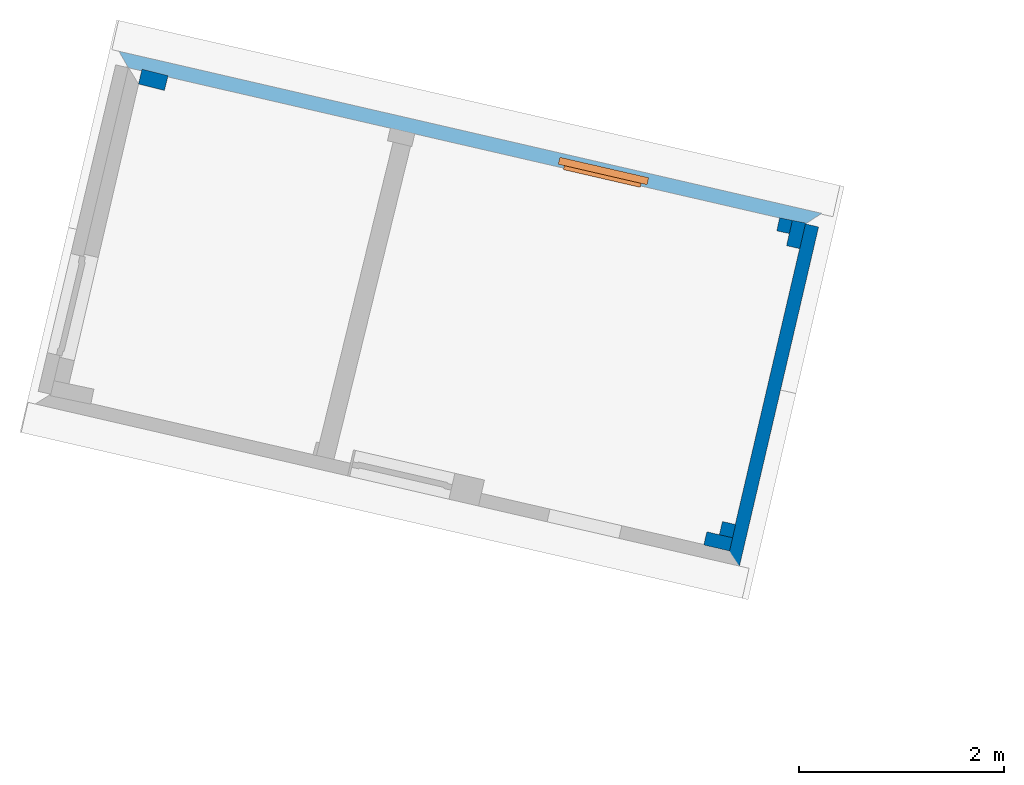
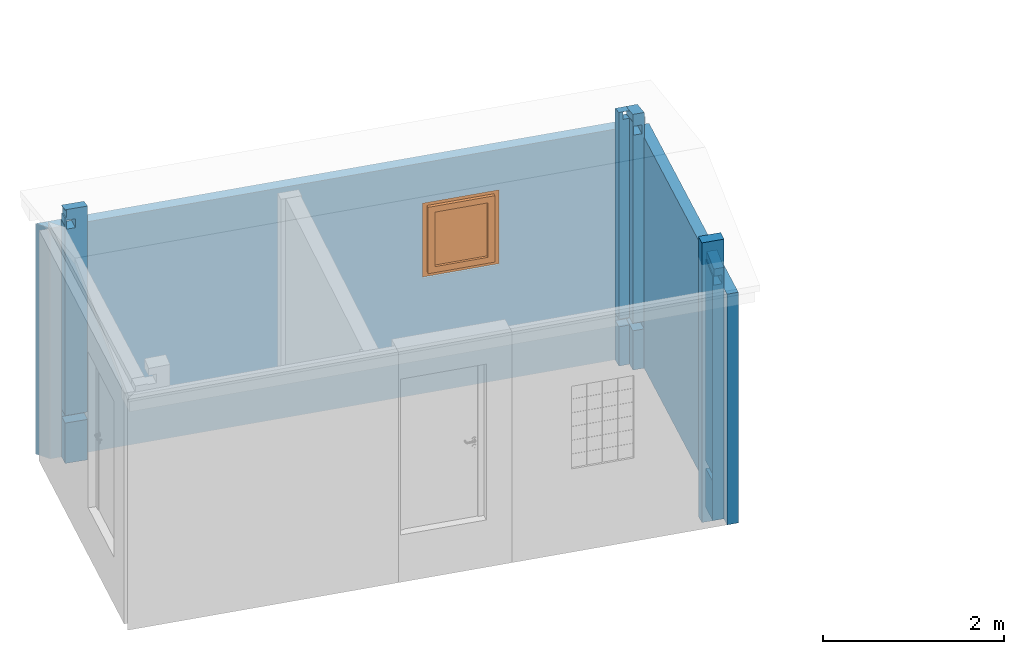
# One storey, part 113 of 196: 6 walls, 1 proxy, 1 opening, plus 1 element that does not belong to this part.
"""IFC2X3 building model written with IfcOpenShell, lengths in metres."""

from ifc_helpers import new_model, entity, si_unit, converted_unit, derived_unit, money_unit, direction, frame, origin_with_axes, origin_2d_with_axis, place, context, subcontext, project, spatial, polyline, rectangle, outline, extrude, boolean, faceted_brep, material, layer, layer_set, layer_usage, type_object, element, fill, save


model = new_model("IFC2X3")

# Units and contexts
model_context = context("Model", 3, precision=1e-05, world=origin_with_axes(), true_north=direction((0.0, 1.0)))
body_context = subcontext(model_context, "Body", "Model", "MODEL_VIEW")
ifc_project = project(units=[si_unit("LENGTHUNIT", "METRE"), si_unit("AREAUNIT", "SQUARE_METRE"), si_unit("VOLUMEUNIT", "CUBIC_METRE"), converted_unit("PLANEANGLEUNIT", "DEGREE", entity("IfcPlaneAngleMeasure", 0.0174532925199), si_unit("PLANEANGLEUNIT", "RADIAN"), dimensions=[0, 0, 0, 0, 0, 0, 0]), money_unit("EUR"), converted_unit("TIMEUNIT", "Year", entity("IfcTimeMeasure", 31556926.0), si_unit("TIMEUNIT", "SECOND"), dimensions=[0, 0, 1, 0, 0, 0, 0]), si_unit("MASSUNIT", "GRAM", prefix="KILO"), si_unit("THERMODYNAMICTEMPERATUREUNIT", "DEGREE_CELSIUS"), si_unit("LUMINOUSINTENSITYUNIT", "LUMEN"), si_unit("ENERGYUNIT", "JOULE", prefix="MEGA"), derived_unit("THERMALCONDUCTANCEUNIT", [(si_unit("POWERUNIT", "WATT"), 1), (si_unit("LENGTHUNIT", "METRE"), -1), (si_unit("THERMODYNAMICTEMPERATUREUNIT", "KELVIN"), -1)]), derived_unit("SPECIFICHEATCAPACITYUNIT", [(si_unit("ENERGYUNIT", "JOULE"), 1), (si_unit("MASSUNIT", "GRAM", prefix="KILO"), -1), (si_unit("THERMODYNAMICTEMPERATUREUNIT", "KELVIN"), -1)]), derived_unit("MASSDENSITYUNIT", [(si_unit("MASSUNIT", "GRAM", prefix="KILO"), 1), (si_unit("VOLUMEUNIT", "CUBIC_METRE"), -1)])], contexts=[model_context])

# Site, building, storey
site_placement = place(None, origin_with_axes())
site = spatial("IfcSite", under=ifc_project, at=site_placement, Name="Gelände", CompositionType="ELEMENT")
building_placement = place(site_placement, origin_with_axes())
building = spatial("IfcBuilding", under=site, at=building_placement, Name="Gebäude", CompositionType="ELEMENT")
storey_placement = place(building_placement, frame((0.0, 0.0, -3.0), z_axis=(0.0, 0.0, 1.0), x_axis=(1.0, 0.0, 0.0)))
storey = spatial("IfcBuildingStorey", under=building, at=storey_placement, Name="KELLERGESCHOSS", CompositionType="ELEMENT", Elevation=-3.0)

# Walls
ifc_material = material(Name="05_ALLGEMEIN - TRAGENDE BAUTEILE")
wall_type_1 = type_object("IfcWallType", Name="05_ALLGEMEIN - TRAGENDE BAUTEILE 150", PredefinedType="ELEMENTEDWALL")
wall_1_placement = place(storey_placement, frame((-70.9080551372, 73.1548123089, 0.0), z_axis=(0.0, 0.0, 1.0), x_axis=(0.970006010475, -0.243080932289, 0.0)))
element("IfcWall", 1, at=wall_1_placement, inside=storey, type_object=wall_type_1, material=ifc_material, Name="Wand-030", ObjectType="ELEMENTEDWALL", context=body_context, shape_type="CSG", body=[
    boolean("DIFFERENCE", boolean("DIFFERENCE", extrude(outline(polyline([(-0.152659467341, 0.0), (0.259885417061, 0.0), (0.259885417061, 0.15), (-0.152659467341, 0.15), (-0.152659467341, 0.0)])), origin_with_axes(), (0.0, 0.0, 1.0), 3.77095608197), faceted_brep([(0.0180226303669, 0.0, 3.1572637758), (0.118028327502, 0.0, 3.15727140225), (0.118028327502, 0.0, 3.27727446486), (0.0180226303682, 0.0, 3.27726683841), (0.0164214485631, 0.15, 3.15619203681), (0.116427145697, 0.15, 3.15619966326), (0.116427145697, 0.15, 3.27620272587), (0.0164214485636, 0.15, 3.27619509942)], [[[0, 1, 2, 3]], [[4, 5, 1, 0]], [[5, 6, 2, 1]], [[6, 7, 3, 2]], [[7, 4, 0, 3]], [[4, 7, 6, 5]]])), faceted_brep([(0.259885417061, 0.0, 3.42187980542), (0.259885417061, 0.15, 3.38691604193), (0.259885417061, 0.15, 3.77095608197), (0.259885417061, 0.0, 3.77095608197), (0.0, 0.15, 3.38578234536), (0.0, 0.0, 3.42074610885), (-0.00263630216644, 0.15, 3.19047733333), (-0.00263630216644, 0.15, 0.0), (-0.152659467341, 0.15, 0.0), (-0.152659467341, 0.15, 3.77095608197), (0.0, 0.15, 3.37619762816), (0.0155148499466, 0.15, 3.37621770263), (0.0155148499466, 0.15, 3.27517541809), (0.0, 0.15, 3.27515534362), (0.0, 0.15, 3.19047733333), (-0.152659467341, 0.0, 3.77095608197), (-0.152659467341, 0.0, 0.0), (0.0, 0.0, 0.0), (0.0, 0.0, 0.545), (0.259885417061, 0.0, 0.545), (0.259885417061, 0.0, 0.645), (0.0, 0.0, 0.645), (0.0, 0.0, 3.19047733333), (0.0, 0.0, 3.31168074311), (0.0163118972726, 0.0, 3.31170184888), (0.0163118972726, 0.0, 3.41274413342), (0.0, 0.0, 3.41272302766), (-0.00232432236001, 0.132249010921, 0.645), (-0.00232432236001, 0.132249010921, 0.545), (0.259885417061, 0.137204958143, 0.545), (0.259885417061, 0.137204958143, 0.645)], [[[0, 1, 2, 3]], [[4, 1, 0, 5]], [[6, 7, 8, 9, 2, 1, 4, 10, 11, 12, 13, 14]], [[9, 15, 3, 2]], [[5, 0, 3, 15, 16, 17, 18, 19, 20, 21, 22, 23, 24, 25, 26]], [[10, 4, 5, 26]], [[7, 6, 22, 21, 27, 28, 18, 17]], [[7, 17, 16, 8]], [[9, 8, 16, 15]], [[11, 10, 26, 25]], [[12, 11, 25, 24]], [[13, 12, 24, 23]], [[14, 13, 23, 22]], [[6, 14, 22]], [[29, 19, 18, 28]], [[30, 20, 19, 29]], [[20, 30, 27, 21]], [[30, 29, 28, 27]]])),
])
wall_type_2 = type_object("IfcWallType", Name="05_ALLGEMEIN - TRAGENDE BAUTEILE 132", PredefinedType="ELEMENTEDWALL")
wall_2_placement = place(storey_placement, frame((-64.5791579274, 71.5763915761, 0.0), z_axis=(0.0, 0.0, 1.0), x_axis=(0.222998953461, 0.974818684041, 0.0)))
element("IfcWall", 2, at=wall_2_placement, inside=storey, type_object=wall_type_2, material=ifc_material, Name="Wand-029", ObjectType="ELEMENTEDWALL", context=body_context, shape_type="CSG", body=[
    boolean("DIFFERENCE", boolean("DIFFERENCE", extrude(outline(polyline([(0.0, -0.132113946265), (0.257510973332, -0.132113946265), (0.257510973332, 0.0), (0.0, 0.0), (0.0, -0.132113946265)])), origin_with_axes(), (0.0, 0.0, 1.0), 3.77095608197), faceted_brep([(0.0, -0.00533378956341, 3.16636833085), (0.0, -0.105334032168, 3.16636787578), (0.0, -0.105334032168, 3.28636813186), (0.0, -0.00533378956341, 3.28636858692), (0.254273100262, -0.00589388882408, 3.16584302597), (0.256838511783, -0.105899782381, 3.165837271), (0.256838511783, -0.105899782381, 3.28583752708), (0.254273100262, -0.00589388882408, 3.28584328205), (0.257510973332, -0.132113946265, 0.0), (0.257510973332, -0.132113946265, 3.38739171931), (0.25412190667, 0.0, 3.38824151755), (0.25412190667, 0.0, 3.38544607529), (0.254195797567, -0.00288044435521, 3.38543176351), (0.254195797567, -0.00288044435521, 3.28451274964), (0.25412190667, 0.0, 3.28452706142), (0.25412190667, 0.0, 0.0), (0.257510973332, 0.0, 0.0), (0.257510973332, 0.0, 3.77095608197), (0.257510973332, -0.132113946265, 3.77095608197), (0.0, -0.132113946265, 3.44742580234), (0.0, 0.0, 3.44748550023), (0.0, 0.0, 3.77095608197), (0.0, 0.0, 3.34504374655), (0.0, 0.0, 3.44596276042), (0.0, -0.00409764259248, 3.44596743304), (0.0, -0.00409764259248, 3.34504841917), (0.0, -0.132113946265, 3.77095608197)], [[[0, 1, 2, 3]], [[1, 0, 4, 5]], [[2, 1, 5, 6]], [[3, 2, 6, 7]], [[0, 3, 7, 4]], [[8, 9, 10, 11, 12, 13, 14, 15], [5, 4, 7, 6]], [[9, 8, 16, 17, 18]], [[9, 19, 20, 10]], [[10, 20, 21, 17, 16, 15, 14, 22, 23, 11]], [[11, 23, 24, 12]], [[24, 25, 13, 12]], [[22, 14, 13, 25]], [[8, 15, 16]], [[21, 26, 18, 17]], [[19, 9, 18, 26]], [[20, 19, 26, 21]], [[24, 23, 22, 25]]])), faceted_brep([(0.0, 0.0, 0.53), (0.0, -0.13074139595, 0.53), (0.0, -0.13074139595, 0.63), (0.0, 0.0, 0.63), (0.248176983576, 0.0, 0.53), (0.247945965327, -0.131820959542, 0.53), (0.247945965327, -0.131820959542, 0.63), (0.248176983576, 0.0, 0.63)], [[[0, 1, 2, 3]], [[1, 0, 4, 5]], [[2, 1, 5, 6]], [[3, 2, 6, 7]], [[4, 0, 3, 7]], [[4, 7, 6, 5]]])),
])
wall_3_placement = place(storey_placement, frame((-64.3953647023, 71.7886979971, 0.0), z_axis=(0.0, 0.0, 1.0), x_axis=(-0.227241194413, -0.973838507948, 0.0)))
element("IfcWall", 3, at=wall_3_placement, inside=storey, type_object=wall_type_2, material=ifc_material, Name="Wand-029", ObjectType="ELEMENTEDWALL", context=body_context, shape_type="CSG", body=[
    boolean("DIFFERENCE", boolean("DIFFERENCE", boolean("DIFFERENCE", extrude(outline(polyline([(-0.136985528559, 0.0), (3.40101510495, 0.0), (3.40101510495, 0.132113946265), (-0.136985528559, 0.132113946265), (-0.136985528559, 0.0)])), origin_with_axes(), (0.0, 0.0, 1.0), 3.1099946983), faceted_brep([(3.36456893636, 0.0, 3.1099946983), (3.36456807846, 0.000125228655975, 3.1099946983), (3.34628840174, 0.0, 3.1099946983), (3.36456893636, 0.0, 3.08419394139), (3.36456807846, 0.000125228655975, 3.08419346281), (3.34628840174, 0.0, 3.08419346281)], [[[0, 1, 2]], [[1, 0, 3, 4]], [[5, 2, 1, 4]], [[3, 0, 2, 5]], [[3, 5, 4]]])), faceted_brep([(3.40061678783, 0.132113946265, 0.0), (3.40061678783, 0.132113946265, 3.1099946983), (3.40101510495, 0.132113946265, 3.1099946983), (3.40101510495, 0.132113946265, 0.0), (3.40101510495, 0.0, 3.1099946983), (3.40101510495, 0.0, 0.0)], [[[0, 1, 2, 3]], [[4, 1, 0, 5]], [[1, 4, 2]], [[4, 5, 3, 2]], [[5, 0, 3]]])), faceted_brep([(0.0, 0.0, 3.1099946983), (-0.000343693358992, 0.132113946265, 3.1099946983), (-0.136985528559, 0.132113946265, 3.1099946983), (-0.136985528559, 0.0, 3.1099946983), (-0.000343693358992, 0.132113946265, 0.0), (0.0, 0.0, 0.0), (-0.136985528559, 0.132113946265, 0.0), (-0.136985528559, 0.0, 0.0)], [[[0, 1, 2, 3]], [[4, 1, 0, 5]], [[1, 4, 6, 2]], [[2, 6, 7, 3]], [[5, 0, 3, 7]], [[4, 5, 7, 6]]])),
])
wall_4_placement = place(storey_placement, frame((-65.2352180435, 68.7533025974, 0.0), z_axis=(0.0, 0.0, 1.0), x_axis=(0.224883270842, 0.974385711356, 0.0)))
element("IfcWall", 4, at=wall_4_placement, inside=storey, type_object=wall_type_2, material=ifc_material, Name="Wand-030", ObjectType="ELEMENTEDWALL", context=body_context, shape_type="CSG", body=[
    boolean("DIFFERENCE", boolean("DIFFERENCE", extrude(outline(polyline([(-0.132323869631, -0.132113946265), (0.132432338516, -0.132113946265), (0.132432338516, 0.0), (-0.132323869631, 0.0), (-0.132323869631, -0.132113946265)])), origin_with_axes(), (0.0, 0.0, 1.0), 3.77095608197), faceted_brep([(0.132432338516, -0.00897898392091, 3.17208239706), (0.132432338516, -0.00897898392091, 3.29208265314), (0.132432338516, -0.108978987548, 3.2920825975), (0.132432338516, -0.108978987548, 3.17208234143), (-0.132128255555, -0.00890773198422, 3.17262895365), (-0.132128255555, -0.00890773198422, 3.28962516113), (-0.119291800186, -0.00891118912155, 3.29260269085), (-0.119281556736, -0.0122158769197, 3.29260266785), (-0.132133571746, -0.012256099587, 3.29262921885), (-0.132287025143, -0.108907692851, 3.29262948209), (-0.132287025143, -0.108907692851, 3.17262922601), (-0.132323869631, -0.132113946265, 3.39021878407), (-0.132323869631, -0.132113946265, 0.0), (-0.13211411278, 0.0, 0.0), (-0.13211411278, 0.0, 3.28963490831), (-0.132133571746, -0.012256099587, 3.39040162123), (0.132432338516, 0.0, 3.3509988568), (0.132432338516, -0.0114280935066, 3.35099056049), (0.132432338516, -0.0114280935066, 3.45170246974), (-0.132323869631, -0.132113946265, 3.77095608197), (-0.132323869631, 0.0, 3.77095608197), (-0.132323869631, 0.0, 0.0), (0.132432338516, 0.0, 3.77095608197), (0.132432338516, -0.132113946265, 3.45156619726), (0.132432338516, -0.132113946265, 3.77095608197)], [[[0, 1, 2, 3]], [[1, 0, 4, 5, 6]], [[2, 1, 6, 7, 8, 9]], [[3, 2, 9, 10]], [[0, 3, 10, 4]], [[11, 12, 13, 14, 5, 4, 10, 9, 8, 15]], [[16, 17, 7, 6, 5, 14]], [[17, 18, 15, 8, 7]], [[12, 11, 19, 20, 21]], [[13, 12, 21]], [[14, 13, 21, 20, 22, 16]], [[18, 23, 11, 15]], [[17, 16, 22, 24, 23, 18]], [[11, 23, 24, 19]], [[20, 19, 24, 22]]])), faceted_brep([(0.132432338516, -0.128435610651, 0.53), (0.132432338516, 0.0, 0.53), (0.132432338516, 0.0, 0.63), (0.132432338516, -0.128435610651, 0.63), (-0.127522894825, -0.12780636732, 0.53), (-0.127598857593, 0.0, 0.53), (-0.127598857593, 0.0, 0.63), (-0.127522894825, -0.12780636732, 0.63)], [[[0, 1, 2, 3]], [[1, 0, 4, 5]], [[6, 2, 1, 5]], [[3, 2, 6, 7]], [[0, 3, 7, 4]], [[6, 5, 4, 7]]])),
])
wall_5_placement = place(storey_placement, frame((-64.5519599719, 71.6952848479, 0.0), z_axis=(0.0, 0.0, 1.0), x_axis=(-0.980216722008, 0.197927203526, 0.0)))
element("IfcWall", 5, at=wall_5_placement, inside=storey, type_object=wall_type_2, material=ifc_material, Name="Wand-030", ObjectType="ELEMENTEDWALL", context=body_context, shape_type="CSG", body=[
    boolean("DIFFERENCE", extrude(outline(polyline([(-0.135546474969, -0.132113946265), (0.124282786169, -0.132113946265), (0.124282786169, 0.0), (-0.135546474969, 0.0), (-0.135546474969, -0.132113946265)])), origin_with_axes(), (0.0, 0.0, 1.0), 3.77095608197), faceted_brep([(0.0736736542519, -0.132113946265, 3.3858288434), (-0.00338906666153, -0.132113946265, 3.38544607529), (-0.00338906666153, -0.132113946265, 3.38824151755), (0.124282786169, -0.132113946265, 3.38906247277), (0.124282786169, -0.132113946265, 3.77095608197), (-0.135546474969, -0.132113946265, 3.77095608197), (-0.135546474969, -0.132113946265, 0.0), (-0.00338906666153, -0.132113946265, 0.0), (-0.00338906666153, -0.132113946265, 3.28452706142), (0.0736736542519, -0.132113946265, 3.28490982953), (0.0764297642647, 0.0, 3.41729771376), (0.0, 0.0, 3.41691808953), (0.0, 0.0, 3.41905165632), (0.124282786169, 0.0, 3.41985081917), (0.124282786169, 0.0, 3.77095608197), (-0.135546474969, 0.0, 3.77095608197), (-0.135546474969, 0.0, 0.0), (0.0, 0.0, 0.0), (0.0, 0.0, 0.53), (-0.00323661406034, -0.126170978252, 0.53), (-0.00323661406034, -0.126170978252, 0.63), (0.0, 0.0, 0.63), (0.0, 0.0, 3.31599907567), (0.0764297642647, 0.0, 3.3163786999), (0.124282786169, 0.0, 0.63), (0.124282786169, 0.0, 0.53), (0.124282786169, -0.129665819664, 0.53), (0.124282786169, -0.129665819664, 0.63)], [[[0, 1, 2, 3, 4, 5, 6, 7, 8, 9]], [[1, 0, 10, 11]], [[2, 1, 11, 12]], [[3, 2, 12, 13]], [[3, 13, 14, 4]], [[15, 5, 4, 14]], [[15, 16, 6, 5]], [[17, 7, 6, 16]], [[8, 7, 17, 18, 19, 20, 21, 22]], [[9, 8, 22, 23]], [[0, 9, 23, 10]], [[18, 17, 16, 15, 14, 13, 12, 11, 10, 23, 22, 21, 24, 25]], [[18, 25, 26, 19]], [[26, 27, 20, 19]], [[24, 21, 20, 27]], [[26, 25, 24, 27]]])),
])
wall_6_placement = place(storey_placement, frame((-65.3577464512, 68.7817865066, 0.0), z_axis=(0.0, 0.0, 1.0), x_axis=(0.974027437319, -0.226430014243, 0.0)))
element("IfcWall", 6, at=wall_6_placement, inside=storey, type_object=wall_type_2, material=ifc_material, Name="Wand-031", ObjectType="ELEMENTEDWALL", context=body_context, shape_type="CSG", body=[
    boolean("DIFFERENCE", extrude(outline(polyline([(0.0, -0.132113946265), (0.258119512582, -0.132113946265), (0.258119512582, 0.0), (0.0, 0.0), (0.0, -0.132113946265)])), origin_with_axes(), (0.0, 0.0, 1.0), 3.77095608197), faceted_brep([(0.0, -0.132113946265, 3.39060521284), (0.0, -0.132113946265, 3.77095608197), (0.0, 0.0, 3.77095608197), (0.0, 0.0, 3.42121743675), (0.126005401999, -0.132114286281, 3.39041649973), (0.0583339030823, -0.132113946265, 3.39048908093), (0.0583339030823, -0.132113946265, 3.28970895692), (0.126005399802, -0.132113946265, 3.28963490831), (0.126005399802, -0.132113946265, 0.0), (0.258119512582, -0.132113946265, 0.0), (0.258119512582, -0.132113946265, 3.77095608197), (0.258119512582, 0.0, 3.77095608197), (0.0577106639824, 7.82418858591e-07, 3.42113122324), (0.258119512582, 0.0, 0.0), (0.125795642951, 0.0, 0.0), (0.125795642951, 0.0, 0.53), (0.0, 0.0, 0.53), (0.0, 0.0, 0.63), (0.125795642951, 0.0, 0.63), (0.125795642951, 0.0, 3.32027997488), (0.0577106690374, 0.0, 3.32035447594), (0.125998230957, -0.127598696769, 0.63), (0.125998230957, -0.127598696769, 0.53), (0.0, -0.127873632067, 0.53), (0.0, -0.127873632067, 0.63)], [[[0, 1, 2, 3]], [[1, 0, 4, 5, 6, 7, 8, 9, 10]], [[2, 1, 10, 11]], [[12, 3, 2, 11, 13, 14, 15, 16, 17, 18, 19, 20]], [[0, 3, 12, 4]], [[5, 4, 12]], [[6, 5, 12, 20]], [[7, 6, 20, 19]], [[8, 7, 19, 18, 21, 22, 15, 14]], [[8, 14, 13, 9]], [[9, 13, 11, 10]], [[23, 16, 15, 22]], [[24, 17, 16, 23]], [[17, 24, 21, 18]], [[24, 23, 22, 21]]])),
])

# Wall, opening, proxy
ifc_layer = layer(ifc_material, 0.136641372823, ventilated="UNKNOWN")
ifc_layer_set = layer_set([ifc_layer], Name="05_ALLGEMEIN - TRAGENDE BAUTEILE 0.136641")
ifc_layer_usage = layer_usage(ifc_layer_set, "AXIS2", "NEGATIVE", 0.136641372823)
wall_type_3 = type_object("IfcWallType", Name="05_ALLGEMEIN - TRAGENDE BAUTEILE 137", PredefinedType="ELEMENTEDWALL")
wall_7_placement = place(storey_placement, frame((-71.1313780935, 73.3420522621, 0.0), z_axis=(0.0, 0.0, 1.0), x_axis=(0.974426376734, -0.224707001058, 0.0)))
wall_7 = element("IfcWallStandardCase", 7, at=wall_7_placement, inside=storey, type_object=wall_type_3, material=ifc_layer_usage, Name="Wand-028", ObjectType="ELEMENTEDWALL", context=body_context, shape_type="SweptSolid", body=[
    extrude(outline(polyline([(0.126969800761, 0.0), (6.91279870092, 0.0), (7.04526856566, 0.136641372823), (0.000880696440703, 0.136641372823), (0.126969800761, 0.0)])), origin_with_axes(), (0.0, 0.0, 1.0), 3.1099946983),
])
opening_placement = place(wall_7_placement, frame((4.87509581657, 0.0, 1.55305066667), z_axis=(0.0, 0.0, 1.0), x_axis=(1.0, 0.0, 0.0)))
opening = element("IfcOpeningElement", 8, at=opening_placement, cuts=wall_7, Name="Fenster-016", context=body_context, shape_type="SweptSolid", body=[
    extrude(rectangle(XDim=0.890044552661, YDim=1.014707, at=origin_2d_with_axis()), frame((0.0, 0.095689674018, 0.5073535), z_axis=(0.0, 1.0, 0.0), x_axis=(-1.0, 0.0, 0.0)), (0.0, 0.0, -1.0), 0.232331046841),
    extrude(rectangle(XDim=0.890044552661, YDim=1.014707, at=origin_2d_with_axis()), frame((0.0, 0.095689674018, 0.5073535), z_axis=(0.0, -1.0, 0.0), x_axis=(-1.0, 0.0, 0.0)), (0.0, 0.0, -1.0), 0.177593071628),
])
building_element_proxy_type = type_object("IfcBuildingElementProxyType", Name="1-Flügelfenster 25", PredefinedType="NOTDEFINED")
proxy_placement = place(opening_placement, frame((0.44502227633, 0.0, 0.0), z_axis=(0.0, 0.0, 1.0), x_axis=(-1.0, 0.0, 0.0)))
proxy = element("IfcBuildingElementProxy", 9, at=proxy_placement, inside=storey, type_object=building_element_proxy_type, Name="Fenster-016", context=body_context, shape_type="Brep", body=[
    faceted_brep([(0.0, -0.095689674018, 0.0), (0.0, -0.025689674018, 0.0), (0.08, -0.025689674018, 0.08), (0.08, -0.095689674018, 0.08), (0.0, -0.095689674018, 1.014707), (0.0, -0.025689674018, 1.014707), (0.08, -0.025689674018, 0.934707), (0.08, -0.095689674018, 0.934707)], [[[0, 1, 2, 3]], [[4, 5, 1, 0]], [[1, 5, 6, 2]], [[3, 2, 6, 7]], [[0, 3, 7, 4]], [[7, 6, 5, 4]]]),
    faceted_brep([(0.890044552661, -0.095689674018, 0.0), (0.890044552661, -0.025689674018, 0.0), (0.890044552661, -0.025689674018, 1.014707), (0.890044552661, -0.095689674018, 1.014707), (0.810044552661, -0.095689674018, 0.08), (0.810044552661, -0.025689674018, 0.08), (0.810044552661, -0.025689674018, 0.934707), (0.810044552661, -0.095689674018, 0.934707)], [[[0, 1, 2, 3]], [[4, 5, 1, 0]], [[1, 5, 6, 2]], [[3, 2, 6, 7]], [[0, 3, 7, 4]], [[7, 6, 5, 4]]]),
    faceted_brep([(0.0, -0.095689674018, 0.0), (0.0, -0.025689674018, 0.0), (0.890044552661, -0.025689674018, 0.0), (0.890044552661, -0.095689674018, 0.0), (0.08, -0.095689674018, 0.08), (0.08, -0.025689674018, 0.08), (0.44502227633, -0.025689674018, 0.08), (0.810044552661, -0.025689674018, 0.08), (0.810044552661, -0.095689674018, 0.08), (0.44502227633, -0.095689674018, 0.08)], [[[0, 1, 2, 3]], [[4, 5, 1, 0]], [[1, 5, 6, 7, 2]], [[3, 2, 7, 8]], [[0, 3, 8, 9, 4]], [[9, 6, 5, 4]], [[8, 7, 6, 9]]]),
    faceted_brep([(0.0, -0.095689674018, 1.014707), (0.0, -0.025689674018, 1.014707), (0.08, -0.025689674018, 0.934707), (0.08, -0.095689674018, 0.934707), (0.890044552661, -0.095689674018, 1.014707), (0.890044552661, -0.025689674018, 1.014707), (0.810044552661, -0.025689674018, 0.934707), (0.44502227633, -0.025689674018, 0.934707), (0.44502227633, -0.095689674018, 0.934707), (0.810044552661, -0.095689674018, 0.934707)], [[[0, 1, 2, 3]], [[4, 5, 1, 0]], [[1, 5, 6, 7, 2]], [[3, 2, 7, 8]], [[0, 3, 8, 9, 4]], [[9, 6, 5, 4]], [[8, 7, 6, 9]]]),
    faceted_brep([(0.06, -0.025689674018, 0.06), (0.06, 0.014310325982, 0.06), (0.14, 0.014310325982, 0.14), (0.14, -0.025689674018, 0.14), (0.06, -0.025689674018, 0.954707), (0.06, 0.014310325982, 0.954707), (0.14, 0.014310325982, 0.874707), (0.14, -0.025689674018, 0.874707)], [[[0, 1, 2, 3]], [[4, 5, 1, 0]], [[1, 5, 6, 2]], [[3, 2, 6, 7]], [[0, 3, 7, 4]], [[7, 6, 5, 4]]]),
    faceted_brep([(0.830044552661, -0.025689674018, 0.06), (0.750044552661, -0.025689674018, 0.14), (0.750044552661, 0.014310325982, 0.14), (0.830044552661, 0.014310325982, 0.06), (0.830044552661, -0.025689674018, 0.954707), (0.750044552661, -0.025689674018, 0.874707), (0.750044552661, 0.014310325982, 0.874707), (0.830044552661, 0.014310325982, 0.954707)], [[[0, 1, 2, 3]], [[0, 4, 5, 1]], [[1, 5, 6, 2]], [[3, 2, 6, 7]], [[4, 0, 3, 7]], [[5, 4, 7, 6]]]),
    faceted_brep([(0.06, -0.025689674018, 0.06), (0.06, 0.014310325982, 0.06), (0.830044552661, 0.014310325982, 0.06), (0.830044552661, -0.025689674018, 0.06), (0.14, -0.025689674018, 0.14), (0.14, 0.014310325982, 0.14), (0.750044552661, 0.014310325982, 0.14), (0.750044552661, -0.025689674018, 0.14)], [[[0, 1, 2, 3]], [[4, 5, 1, 0]], [[1, 5, 6, 2]], [[3, 2, 6, 7]], [[0, 3, 7, 4]], [[7, 6, 5, 4]]]),
    faceted_brep([(0.06, -0.025689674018, 0.954707), (0.830044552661, -0.025689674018, 0.954707), (0.830044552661, 0.014310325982, 0.954707), (0.06, 0.014310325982, 0.954707), (0.14, -0.025689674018, 0.874707), (0.750044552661, -0.025689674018, 0.874707), (0.750044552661, 0.014310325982, 0.874707), (0.14, 0.014310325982, 0.874707)], [[[0, 1, 2, 3]], [[0, 4, 5, 1]], [[1, 5, 6, 2]], [[3, 2, 6, 7]], [[4, 0, 3, 7]], [[5, 4, 7, 6]]]),
    faceted_brep([(0.08, -0.055689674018, 0.08), (0.08, -0.025689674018, 0.08), (0.14, -0.025689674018, 0.14), (0.14, -0.055689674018, 0.14), (0.08, -0.055689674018, 0.934707), (0.08, -0.025689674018, 0.934707), (0.14, -0.025689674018, 0.874707), (0.14, -0.055689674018, 0.874707)], [[[0, 1, 2, 3]], [[4, 5, 1, 0]], [[1, 5, 6, 2]], [[3, 2, 6, 7]], [[0, 3, 7, 4]], [[7, 6, 5, 4]]]),
    faceted_brep([(0.810044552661, -0.055689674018, 0.08), (0.750044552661, -0.055689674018, 0.14), (0.750044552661, -0.025689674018, 0.14), (0.810044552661, -0.025689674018, 0.08), (0.810044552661, -0.055689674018, 0.934707), (0.750044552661, -0.055689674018, 0.874707), (0.750044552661, -0.025689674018, 0.874707), (0.810044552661, -0.025689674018, 0.934707)], [[[0, 1, 2, 3]], [[0, 4, 5, 1]], [[1, 5, 6, 2]], [[3, 2, 6, 7]], [[4, 0, 3, 7]], [[5, 4, 7, 6]]]),
    faceted_brep([(0.08, -0.055689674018, 0.08), (0.08, -0.025689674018, 0.08), (0.810044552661, -0.025689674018, 0.08), (0.810044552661, -0.055689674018, 0.08), (0.14, -0.055689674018, 0.14), (0.14, -0.025689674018, 0.14), (0.750044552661, -0.025689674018, 0.14), (0.750044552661, -0.055689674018, 0.14)], [[[0, 1, 2, 3]], [[4, 5, 1, 0]], [[1, 5, 6, 2]], [[3, 2, 6, 7]], [[0, 3, 7, 4]], [[7, 6, 5, 4]]]),
    faceted_brep([(0.08, -0.055689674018, 0.934707), (0.810044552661, -0.055689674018, 0.934707), (0.810044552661, -0.025689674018, 0.934707), (0.08, -0.025689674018, 0.934707), (0.14, -0.055689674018, 0.874707), (0.750044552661, -0.055689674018, 0.874707), (0.750044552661, -0.025689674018, 0.874707), (0.14, -0.025689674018, 0.874707)], [[[0, 1, 2, 3]], [[0, 4, 5, 1]], [[1, 5, 6, 2]], [[3, 2, 6, 7]], [[4, 0, 3, 7]], [[5, 4, 7, 6]]]),
    faceted_brep([(0.14, -0.025689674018, 0.14), (0.14, -0.0156896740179, 0.14), (0.750044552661, -0.015689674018, 0.14), (0.750044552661, -0.025689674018, 0.14), (0.14, -0.025689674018, 0.874707), (0.14, -0.0156896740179, 0.874707), (0.750044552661, -0.015689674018, 0.874707), (0.750044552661, -0.025689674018, 0.874707)], [[[0, 1, 2, 3]], [[4, 5, 1, 0]], [[1, 5, 6, 2]], [[3, 2, 6, 7]], [[0, 3, 7, 4]], [[7, 6, 5, 4]]]),
])
fill(opening, proxy)

save(model, "model.ifc")
